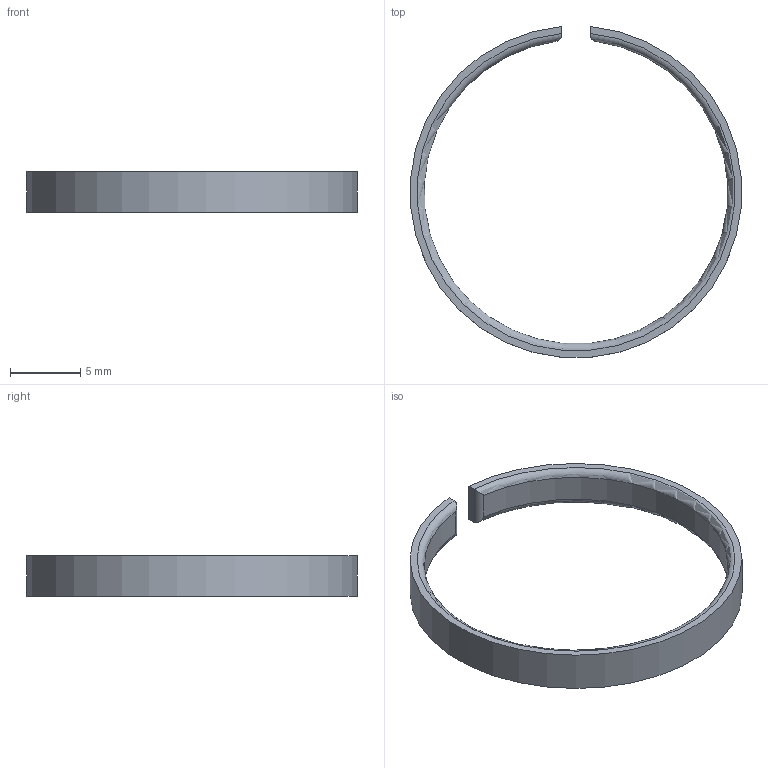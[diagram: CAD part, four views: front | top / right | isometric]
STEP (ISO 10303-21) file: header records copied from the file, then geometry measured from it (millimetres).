
FILE_DESCRIPTION(/* description */ (''),/* implementation_level */ '2;1');
FILE_NAME(/* name */ 'C:\Users\carinabecker\Desktop\STEP Modelle Zubehör\B23\Farbring offen\B23_Farbring_offen_grün.stp',/* time_stamp */ '2019-06-19T15:49:19+02:00',/* author */ ('CarinaBecker'),/* organization */ (''),/* preprocessor_version */ 'ST-DEVELOPER v16.13',/* originating_system */ 'Autodesk Inventor 2018',/* authorisation */ '');
FILE_SCHEMA (('AUTOMOTIVE_DESIGN { 1 0 10303 214 3 1 1 }'));
Length unit declared in the file: millimetre
Products named in the file (1): 7151A1052_grün
Bounding box: 23.51 x 23.51 x 2.9 mm (x, y, z)
Volume: 192.8 mm3; surface area: 514.9 mm2
Topology: 1 solids, 1 shells, 10 faces, 24 edges, 16 vertices
Faces by surface type: cylinder 4, plane 4, torus 2
Entity records: 373 total; most frequent: CARTESIAN_POINT 95, DIRECTION 52, ORIENTED_EDGE 48, EDGE_CURVE 24, AXIS2_PLACEMENT_3D 21, VERTEX_POINT 16, LINE 10, VECTOR 10
